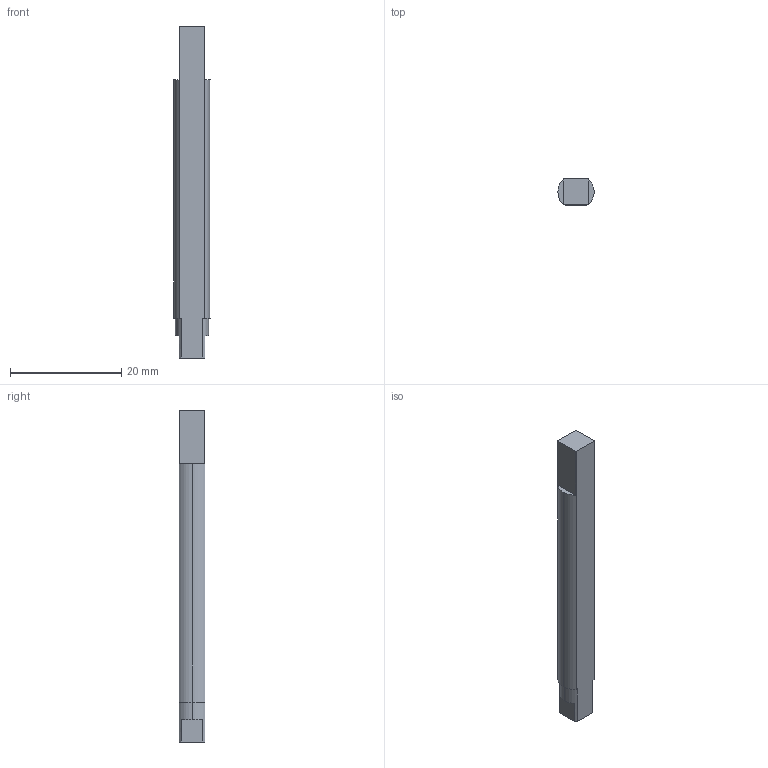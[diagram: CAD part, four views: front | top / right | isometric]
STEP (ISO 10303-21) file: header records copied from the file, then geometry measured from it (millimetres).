
FILE_DESCRIPTION (( 'STEP AP214' ), '1' );
FILE_NAME ('Ì44_Âàë_ìåæîñåâîé_Ç.STEP', '2019-03-21T13:57:29', ( '' ), ( '' ), 'SwSTEP 2.0', 'SolidWorks 2018', '' );
FILE_SCHEMA (( 'AUTOMOTIVE_DESIGN' ));
Length unit declared in the file: millimetre
Products named in the file (1): Ì44_Âàë_ìåæîñåâîé_Ç
Bounding box: 6.49 x 4.6 x 59.8 mm (x, y, z)
Volume: 1514.9 mm3; surface area: 1237 mm2
Topology: 1 solids, 1 shells, 25 faces, 64 edges, 42 vertices
Faces by surface type: plane 15, cylinder 8, cone 2
Entity records: 802 total; most frequent: DIRECTION 142, CARTESIAN_POINT 132, ORIENTED_EDGE 128, EDGE_CURVE 64, AXIS2_PLACEMENT_3D 52, VERTEX_POINT 42, VECTOR 38, LINE 38
